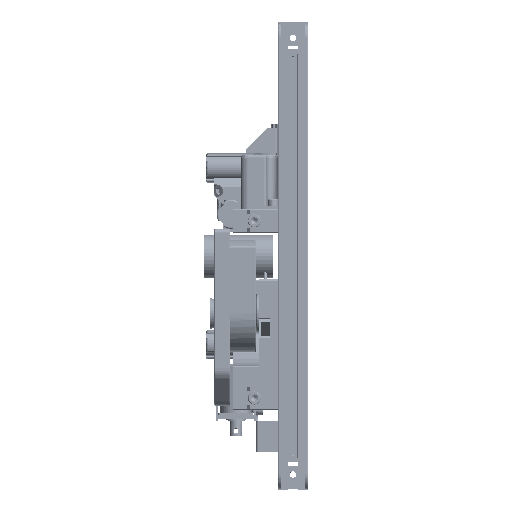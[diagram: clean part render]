
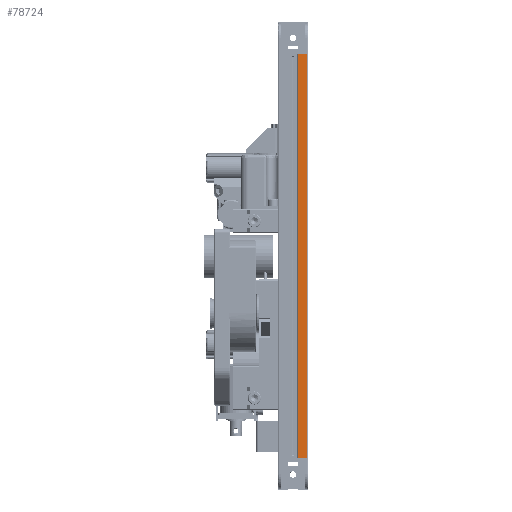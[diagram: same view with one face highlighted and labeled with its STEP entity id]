
A CAD part, left-side view. The second image highlights one B-rep face of the part: STEP entity #78724.
In plain terms, the highlighted planar face has unit normal (-1, 0, 0).
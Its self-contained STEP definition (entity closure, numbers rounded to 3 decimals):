
#7733 = EDGE_CURVE ( 'NONE', #135584, #198463, #57416, .T. ) ;
#17350 = CARTESIAN_POINT ( 'NONE',  ( -199., 301., 132.25 ) ) ;
#18579 = VECTOR ( 'NONE', #95584, 1000. ) ;
#22297 = EDGE_CURVE ( 'NONE', #135584, #87094, #29733, .T. ) ;
#29733 = LINE ( 'NONE', #200523, #18579 ) ;
#29794 = CARTESIAN_POINT ( 'NONE',  ( -199., 319., 132.25 ) ) ;
#36401 = EDGE_CURVE ( 'NONE', #133808, #87094, #189557, .T. ) ;
#38062 = ORIENTED_EDGE ( 'NONE', *, *, #105471, .F. ) ;
#39359 = PLANE ( 'NONE',  #163815 ) ;
#57416 = LINE ( 'NONE', #125447, #123469 ) ;
#57581 = CARTESIAN_POINT ( 'NONE',  ( -199., 306.7, 132.25 ) ) ;
#71217 = VECTOR ( 'NONE', #199491, 1000. ) ;
#78724 = ADVANCED_FACE ( 'NONE', ( #89534 ), #39359, .F. ) ;
#82666 = CARTESIAN_POINT ( 'NONE',  ( -199., 301., -131.25 ) ) ;
#87094 = VERTEX_POINT ( 'NONE', #82666 ) ;
#89534 = FACE_OUTER_BOUND ( 'NONE', #216142, .T. ) ;
#95584 = DIRECTION ( 'NONE',  ( 0., -1., 0. ) ) ;
#95650 = LINE ( 'NONE', #29794, #71217 ) ;
#98054 = ORIENTED_EDGE ( 'NONE', *, *, #7733, .F. ) ;
#98943 = VECTOR ( 'NONE', #190664, 1000. ) ;
#105471 = EDGE_CURVE ( 'NONE', #198463, #133808, #95650, .T. ) ;
#108497 = DIRECTION ( 'NONE',  ( 0., 0., -1. ) ) ;
#113486 = CARTESIAN_POINT ( 'NONE',  ( -199., 306.7, -131.25 ) ) ;
#120153 = ORIENTED_EDGE ( 'NONE', *, *, #36401, .F. ) ;
#123469 = VECTOR ( 'NONE', #193621, 1000. ) ;
#123618 = CARTESIAN_POINT ( 'NONE',  ( -199., 301., 348.75 ) ) ;
#125255 = DIRECTION ( 'NONE',  ( 1., 0., 0. ) ) ;
#125447 = CARTESIAN_POINT ( 'NONE',  ( -199., 306.7, 348.75 ) ) ;
#133808 = VERTEX_POINT ( 'NONE', #17350 ) ;
#135584 = VERTEX_POINT ( 'NONE', #113486 ) ;
#151166 = ORIENTED_EDGE ( 'NONE', *, *, #22297, .T. ) ;
#163815 = AXIS2_PLACEMENT_3D ( 'NONE', #210174, #125255, #108497 ) ;
#189557 = LINE ( 'NONE', #123618, #98943 ) ;
#190664 = DIRECTION ( 'NONE',  ( 0., 0., -1. ) ) ;
#193621 = DIRECTION ( 'NONE',  ( 0., 0., 1. ) ) ;
#198463 = VERTEX_POINT ( 'NONE', #57581 ) ;
#199491 = DIRECTION ( 'NONE',  ( 0., -1., 0. ) ) ;
#200523 = CARTESIAN_POINT ( 'NONE',  ( -199., 319., -131.25 ) ) ;
#210174 = CARTESIAN_POINT ( 'NONE',  ( -199., 301., 348.75 ) ) ;
#216142 = EDGE_LOOP ( 'NONE', ( #120153, #38062, #98054, #151166 ) ) ;
